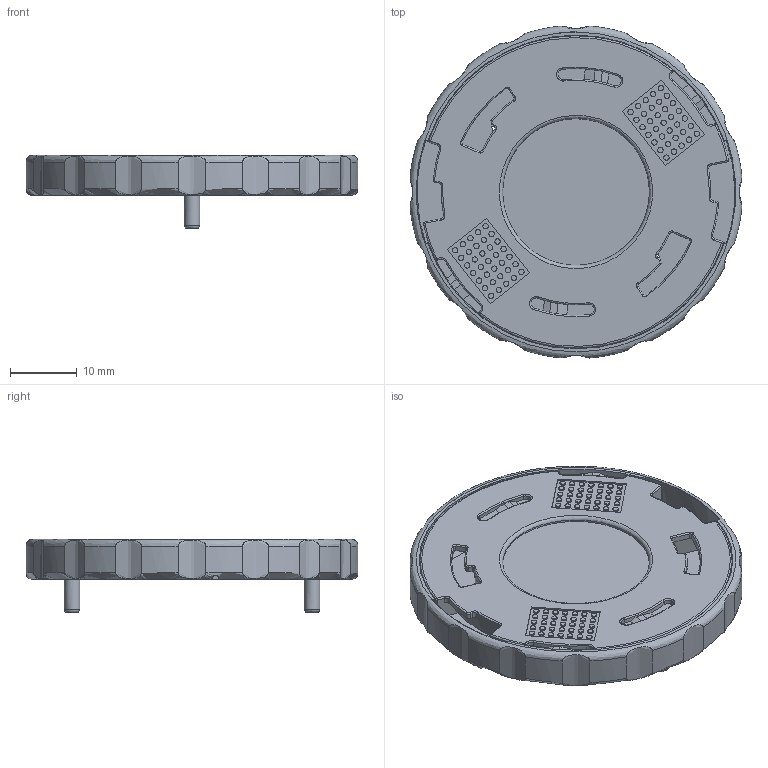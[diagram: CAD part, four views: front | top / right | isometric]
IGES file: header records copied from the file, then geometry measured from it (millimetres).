
Start section: C
Global section: file name: 023-701-03.igs; native system: By Siemens PLM Incorporated; preprocessor: XPlus GENERIC/IGES 23.0.61; author: Author; organization: Title; date: 20240422.084714; units: millimetre
Bounding box: 49.83 x 49.83 x 11 mm (x, y, z)
Volume: 5662.8 mm3; surface area: 11190.5 mm2
Topology: 2 solids, 2 shells, 1329 faces, 3566 edges, 2274 vertices
Faces by surface type: bspline 1329
